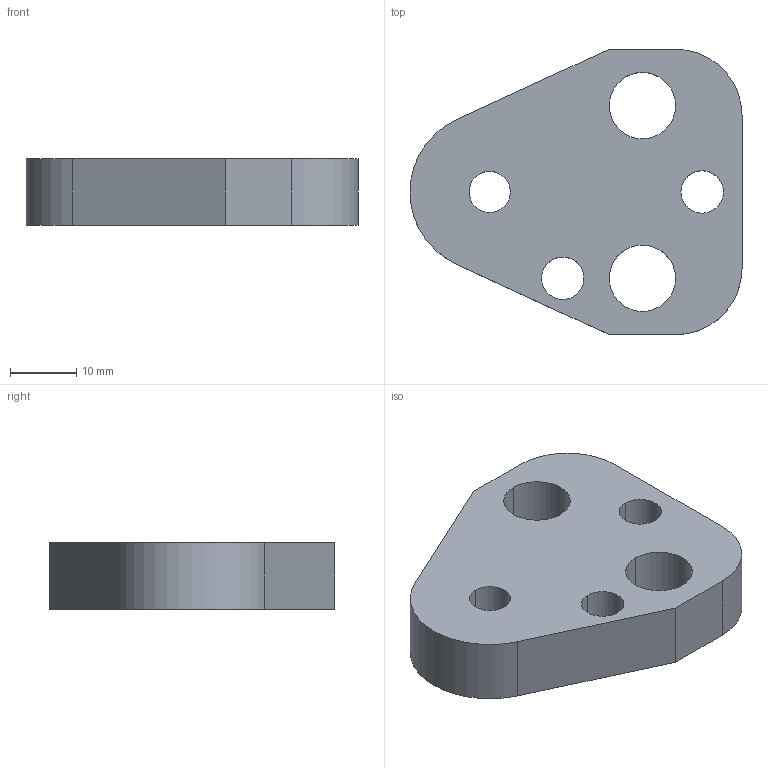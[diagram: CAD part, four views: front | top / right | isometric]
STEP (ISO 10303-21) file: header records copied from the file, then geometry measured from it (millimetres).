
FILE_DESCRIPTION(/* description */ (''),/* implementation_level */ '2;1');
FILE_NAME(/* name */ '3d_bpc13-10_03432_r00.stp',/* time_stamp */ '2011-01-10T14:17:11+09:00',/* author */ ('MISUMI'),/* organization */ (''),/* preprocessor_version */ 'ST-DEVELOPER v11',/* originating_system */ 'UGS - NX 5.0',/* authorisation */ '');
FILE_SCHEMA (('CONFIG_CONTROL_DESIGN'));
Length unit declared in the file: millimetre
Products named in the file (1): 3d_bpc13-10_03432_r00
Bounding box: 50 x 43 x 10 mm (x, y, z)
Volume: 14206.3 mm3; surface area: 5590.9 mm2
Topology: 1 solids, 1 shells, 20 faces, 54 edges, 36 vertices
Faces by surface type: cylinder 13, plane 7
Entity records: 750 total; most frequent: DIRECTION 122, CARTESIAN_POINT 111, ORIENTED_EDGE 108, EDGE_CURVE 54, AXIS2_PLACEMENT_3D 47, VERTEX_POINT 36, EDGE_LOOP 30, LINE 28
